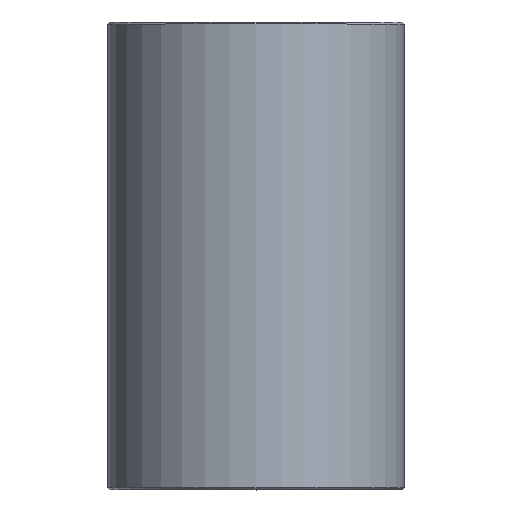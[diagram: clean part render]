
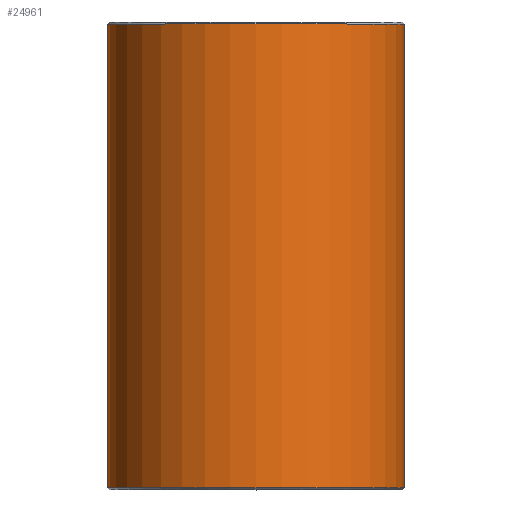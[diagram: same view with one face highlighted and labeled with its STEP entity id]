
A CAD part, top view. The second image highlights one B-rep face of the part: STEP entity #24961.
In plain terms, the highlighted cylindrical face has radius 15.25 mm (diameter 30.5 mm), a partial arc.
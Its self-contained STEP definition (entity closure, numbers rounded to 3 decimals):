
#11064=CARTESIAN_POINT('',(0.,0.2,0.));
#11065=DIRECTION('',(0.,-1.,0.));
#11066=DIRECTION('',(1.,0.,0.));
#11067=AXIS2_PLACEMENT_3D('',#11064,#11065,#11066);
#11069=DIRECTION('',(0.,1.,0.));
#11070=VECTOR('',#11069,47.6);
#11071=CARTESIAN_POINT('',(-15.25,0.2,
0.));
#11072=LINE('',#11071,#11070);
#11073=CARTESIAN_POINT('',(0.,47.8,0.));
#11074=DIRECTION('',(0.,1.,0.));
#11075=DIRECTION('',(-1.,0.,0.));
#11076=AXIS2_PLACEMENT_3D('',#11073,#11074,#11075);
#11091=DIRECTION('',(0.,1.,0.));
#11092=VECTOR('',#11091,47.6);
#11093=CARTESIAN_POINT('',(15.25,0.2,
0.));
#11094=LINE('',#11093,#11092);
#11271=CARTESIAN_POINT('',(-15.25,0.2,0.));
#11272=CARTESIAN_POINT('',(15.25,0.2,0.));
#11273=VERTEX_POINT('',#11271);
#11274=VERTEX_POINT('',#11272);
#11279=CARTESIAN_POINT('',(15.25,47.8,0.));
#11280=CARTESIAN_POINT('',(-15.25,47.8,0.));
#11281=VERTEX_POINT('',#11279);
#11282=VERTEX_POINT('',#11280);
#24947=CARTESIAN_POINT('',(0.,0.,0.));
#24948=DIRECTION('',(0.,1.,0.));
#24949=DIRECTION('',(1.,0.,0.));
#24950=AXIS2_PLACEMENT_3D('',#24947,#24948,#24949);
#24951=CYLINDRICAL_SURFACE('',#24950,15.25);
#24953=ORIENTED_EDGE('',*,*,#24952,.T.);
#24955=ORIENTED_EDGE('',*,*,#24954,.T.);
#24956=ORIENTED_EDGE('',*,*,#24941,.T.);
#24958=ORIENTED_EDGE('',*,*,#24957,.F.);
#24959=EDGE_LOOP('',(#24953,#24955,#24956,#24958));
#24960=FACE_OUTER_BOUND('',#24959,.F.);
#24961=ADVANCED_FACE('',(#24960),#24951,.T.);
#11068=CIRCLE('',#11067,15.25);
#11077=CIRCLE('',#11076,15.25);
#24941=EDGE_CURVE('',#11282,#11281,#11077,.T.);
#24952=EDGE_CURVE('',#11274,#11273,#11068,.T.);
#24954=EDGE_CURVE('',#11273,#11282,#11072,.T.);
#24957=EDGE_CURVE('',#11274,#11281,#11094,.T.);
